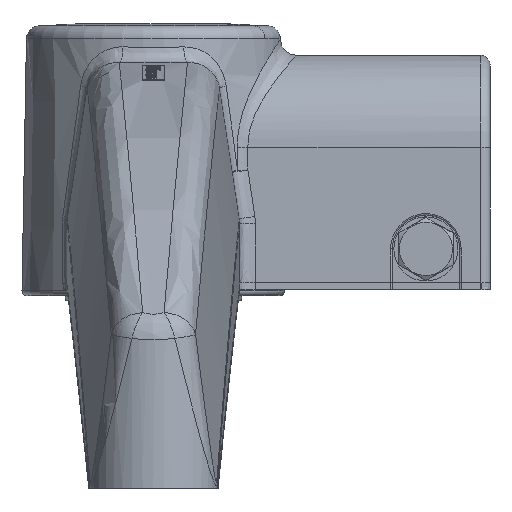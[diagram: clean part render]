
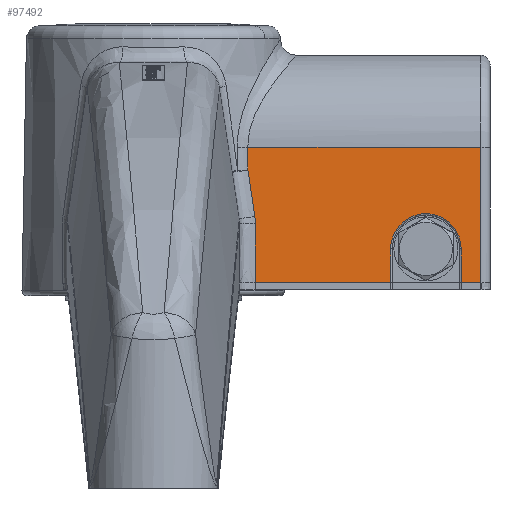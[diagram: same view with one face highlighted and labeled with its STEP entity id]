
A CAD part, front view. The second image highlights one B-rep face of the part: STEP entity #97492.
In plain terms, the highlighted planar face has unit normal (0, -1, 0.018).
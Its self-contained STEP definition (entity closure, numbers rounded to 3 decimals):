
#10587=CARTESIAN_POINT('Vertex',(29.513,-29.388,99.168)) ;
#13453=CARTESIAN_POINT('Vertex',(31.669,-29.641,84.685)) ;
#13457=CARTESIAN_POINT('Control Point',(29.513,-29.388,99.168)) ;
#13458=CARTESIAN_POINT('Control Point',(29.945,-29.438,96.27)) ;
#13459=CARTESIAN_POINT('Control Point',(30.376,-29.489,93.373)) ;
#13460=CARTESIAN_POINT('Control Point',(30.807,-29.539,90.476)) ;
#13461=CARTESIAN_POINT('Control Point',(31.238,-29.59,87.58)) ;
#13462=CARTESIAN_POINT('Control Point',(31.669,-29.641,84.685)) ;
#14225=CARTESIAN_POINT('Vertex',(31.835,-29.68,82.446)) ;
#14229=CARTESIAN_POINT('Control Point',(31.835,-29.68,82.446)) ;
#14230=CARTESIAN_POINT('Control Point',(31.835,-29.676,82.643)) ;
#14231=CARTESIAN_POINT('Control Point',(31.832,-29.673,82.841)) ;
#14232=CARTESIAN_POINT('Control Point',(31.825,-29.669,83.039)) ;
#14233=CARTESIAN_POINT('Control Point',(31.804,-29.661,83.488)) ;
#14234=CARTESIAN_POINT('Control Point',(31.765,-29.654,83.936)) ;
#14235=CARTESIAN_POINT('Control Point',(31.738,-29.649,84.186)) ;
#14236=CARTESIAN_POINT('Control Point',(31.707,-29.645,84.436)) ;
#14237=CARTESIAN_POINT('Control Point',(31.669,-29.641,84.685)) ;
#16132=CARTESIAN_POINT('Control Point',(31.832,-30.,64.09)) ;
#16133=CARTESIAN_POINT('Control Point',(31.832,-29.977,65.4)) ;
#16134=CARTESIAN_POINT('Control Point',(31.832,-29.954,66.711)) ;
#16135=CARTESIAN_POINT('Control Point',(31.833,-29.931,68.022)) ;
#16136=CARTESIAN_POINT('Control Point',(31.833,-29.867,71.693)) ;
#16137=CARTESIAN_POINT('Control Point',(31.834,-29.803,75.364)) ;
#16138=CARTESIAN_POINT('Control Point',(31.834,-29.762,77.724)) ;
#16139=CARTESIAN_POINT('Control Point',(31.835,-29.721,80.085)) ;
#16140=CARTESIAN_POINT('Control Point',(31.835,-29.68,82.446)) ;
#16141=CARTESIAN_POINT('Vertex',(31.832,-30.,64.09)) ;
#17957=CARTESIAN_POINT('Vertex',(102.,-30.,64.09)) ;
#17977=CARTESIAN_POINT('Line Origine',(99.,-30.,64.09)) ;
#17981=CARTESIAN_POINT('Vertex',(96.,-30.,64.09)) ;
#18149=CARTESIAN_POINT('Vertex',(74.,-30.,64.09)) ;
#18164=CARTESIAN_POINT('Line Origine',(52.916,-30.,64.09)) ;
#18645=CARTESIAN_POINT('Line Origine',(96.,-29.632,85.166)) ;
#18649=CARTESIAN_POINT('Vertex',(96.,-29.817,74.588)) ;
#19218=CARTESIAN_POINT('Vertex',(74.,-29.817,74.588)) ;
#19221=CARTESIAN_POINT('Axis2P3D Location',(85.,-29.817,74.588)) ;
#22457=CARTESIAN_POINT('Vertex',(29.468,-29.264,106.242)) ;
#23642=CARTESIAN_POINT('Line Origine',(66.,-29.264,106.242)) ;
#23646=CARTESIAN_POINT('Vertex',(102.,-29.264,106.242)) ;
#95077=CARTESIAN_POINT('Line Origine',(74.,-29.632,85.166)) ;
#95161=CARTESIAN_POINT('Line Origine',(102.,-29.38,99.597)) ;
#97466=CARTESIAN_POINT('Axis2P3D Location',(27.,-29.264,106.242)) ;
#97472=CARTESIAN_POINT('Control Point',(29.513,-29.388,99.168)) ;
#97473=CARTESIAN_POINT('Control Point',(29.504,-29.363,100.582)) ;
#97474=CARTESIAN_POINT('Control Point',(29.495,-29.338,101.997)) ;
#97475=CARTESIAN_POINT('Control Point',(29.486,-29.314,103.412)) ;
#97476=CARTESIAN_POINT('Control Point',(29.477,-29.289,104.827)) ;
#97477=CARTESIAN_POINT('Control Point',(29.468,-29.264,106.242)) ;
#17978=DIRECTION('Vector Direction',(1.,0.,0.)) ;
#18165=DIRECTION('Vector Direction',(1.,0.,0.)) ;
#18646=DIRECTION('Vector Direction',(0.,0.017,1.)) ;
#19222=DIRECTION('Axis2P3D Direction',(0.,-1.,0.017)) ;
#23643=DIRECTION('Vector Direction',(-1.,0.,0.)) ;
#95078=DIRECTION('Vector Direction',(0.,0.017,1.)) ;
#95162=DIRECTION('Vector Direction',(0.,-0.017,-1.)) ;
#97467=DIRECTION('Axis2P3D Direction',(0.,-1.,0.017)) ;
#97468=DIRECTION('Axis2P3D XDirection',(0.,-0.017,-1.)) ;
#19223=AXIS2_PLACEMENT_3D('Circle Axis2P3D',#19221,#19222,$) ;
#97469=AXIS2_PLACEMENT_3D('Plane Axis2P3D',#97466,#97467,#97468) ;
#97480=ORIENTED_EDGE('',*,*,#17983,.T.) ;
#97481=ORIENTED_EDGE('',*,*,#95165,.T.) ;
#97482=ORIENTED_EDGE('',*,*,#23648,.F.) ;
#97483=ORIENTED_EDGE('',*,*,#97478,.F.) ;
#97484=ORIENTED_EDGE('',*,*,#13463,.T.) ;
#97485=ORIENTED_EDGE('',*,*,#14238,.T.) ;
#97486=ORIENTED_EDGE('',*,*,#16143,.T.) ;
#97487=ORIENTED_EDGE('',*,*,#18168,.T.) ;
#97488=ORIENTED_EDGE('',*,*,#95081,.T.) ;
#97489=ORIENTED_EDGE('',*,*,#19225,.T.) ;
#97490=ORIENTED_EDGE('',*,*,#18651,.T.) ;
#17979=VECTOR('Line Direction',#17978,1.) ;
#18166=VECTOR('Line Direction',#18165,1.) ;
#18647=VECTOR('Line Direction',#18646,1.) ;
#23644=VECTOR('Line Direction',#23643,1.) ;
#95079=VECTOR('Line Direction',#95078,1.) ;
#95163=VECTOR('Line Direction',#95162,1.) ;
#97492=ADVANCED_FACE('PartBody',(#97491),#97470,.T.) ;
#13456=B_SPLINE_CURVE_WITH_KNOTS('',5,(#13457,#13458,#13459,#13460,#13461,#13462),.UNSPECIFIED.,.F.,.U.,(6,6),(50.399,71.219),.UNSPECIFIED.) ;
#14228=B_SPLINE_CURVE_WITH_KNOTS('',5,(#14229,#14230,#14231,#14232,#14233,#14234,#14235,#14236,#14237),.UNSPECIFIED.,.F.,.U.,(6,3,6),(16.414,20.928,26.674),.UNSPECIFIED.) ;
#16131=B_SPLINE_CURVE_WITH_KNOTS('',5,(#16132,#16133,#16134,#16135,#16136,#16137,#16138,#16139,#16140),.UNSPECIFIED.,.F.,.U.,(6,3,6),(114.231,123.5,140.194),.UNSPECIFIED.) ;
#97471=B_SPLINE_CURVE_WITH_KNOTS('',5,(#97472,#97473,#97474,#97475,#97476,#97477),.UNSPECIFIED.,.F.,.U.,(6,6),(77.139,87.146),.UNSPECIFIED.) ;
#19224=CIRCLE('generated circle',#19223,11.) ;
#13463=EDGE_CURVE('',#10588,#13454,#13456,.T.) ;
#14238=EDGE_CURVE('',#13454,#14226,#14228,.F.) ;
#16143=EDGE_CURVE('',#14226,#16142,#16131,.F.) ;
#17983=EDGE_CURVE('',#17982,#17958,#17980,.T.) ;
#18168=EDGE_CURVE('',#16142,#18150,#18167,.T.) ;
#18651=EDGE_CURVE('',#18650,#17982,#18648,.F.) ;
#19225=EDGE_CURVE('',#19219,#18650,#19224,.F.) ;
#23648=EDGE_CURVE('',#22458,#23647,#23645,.F.) ;
#95081=EDGE_CURVE('',#18150,#19219,#95080,.T.) ;
#95165=EDGE_CURVE('',#17958,#23647,#95164,.F.) ;
#97478=EDGE_CURVE('',#10588,#22458,#97471,.T.) ;
#97479=EDGE_LOOP('',(#97480,#97481,#97482,#97483,#97484,#97485,#97486,#97487,#97488,#97489,#97490)) ;
#97491=FACE_OUTER_BOUND('',#97479,.T.) ;
#17980=LINE('Line',#17977,#17979) ;
#18167=LINE('Line',#18164,#18166) ;
#18648=LINE('Line',#18645,#18647) ;
#23645=LINE('Line',#23642,#23644) ;
#95080=LINE('Line',#95077,#95079) ;
#95164=LINE('Line',#95161,#95163) ;
#97470=PLANE('',#97469) ;
#10588=VERTEX_POINT('',#10587) ;
#13454=VERTEX_POINT('',#13453) ;
#14226=VERTEX_POINT('',#14225) ;
#16142=VERTEX_POINT('',#16141) ;
#17958=VERTEX_POINT('',#17957) ;
#17982=VERTEX_POINT('',#17981) ;
#18150=VERTEX_POINT('',#18149) ;
#18650=VERTEX_POINT('',#18649) ;
#19219=VERTEX_POINT('',#19218) ;
#22458=VERTEX_POINT('',#22457) ;
#23647=VERTEX_POINT('',#23646) ;
